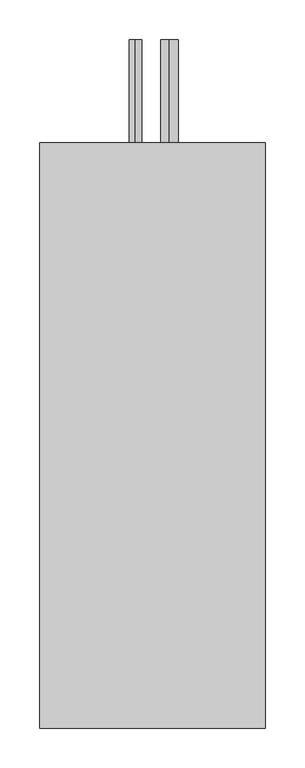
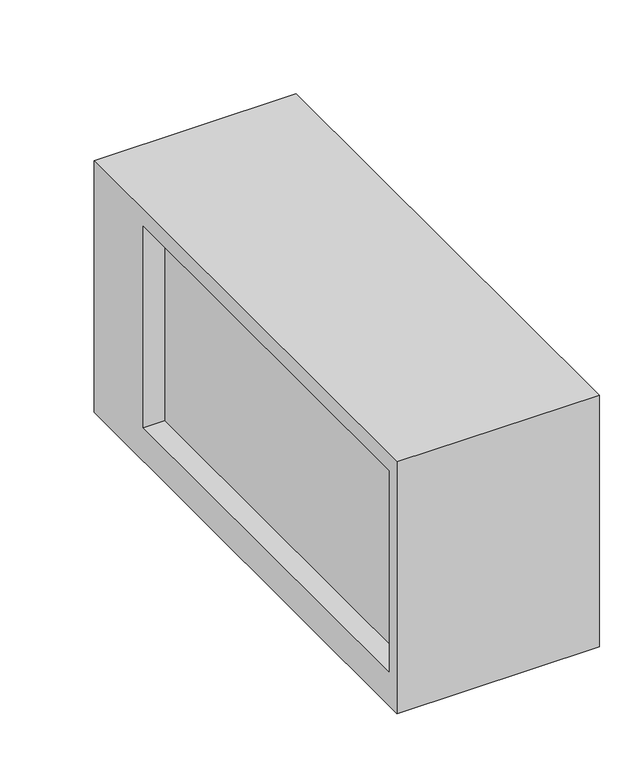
"""IFC4 building model written with IfcOpenShell, lengths in millimetres: proxy geometry, СВ_ВоздухоохладительФреоновый_КанальныйПрямоугольный_200-1000_SPC-F : SPC-F-600x300-L."""

import ifcopenshell
import ifcopenshell.guid

model = None  # the IFC model being written
_history = None  # IfcOwnerHistory: only IFC2X3 demands one
_inside = {}  # id of a spatial element -> (the spatial element, [elements in it])
_under = {}  # id of a project, library or spatial element -> (it, [spatial elements below it])
_declared = {}  # id of a project -> (the project, [libraries it declares])
_typed = {}  # id of a type object -> (the type object, [elements of that type])
_made_of = {}  # id of a material, layer set ... -> (it, [elements and type objects made of it])


def new_model(schema):
    """Start an empty IFC model of exactly this schema.

    Asked for "IFC4X3", IfcOpenShell would pick the latest addendum, in which some entities
    have other attributes; the version numbers below select the first issue.
    IFC2X3 requires an IfcOwnerHistory on every rooted entity: one is made here for all.
    """
    global model, _history
    if schema == "IFC4X3":
        model = ifcopenshell.file(schema_version=(4, 3, 0, 0))
    else:
        model = ifcopenshell.file(schema=schema)
    _inside.clear()
    _under.clear()
    _declared.clear()
    _typed.clear()
    _made_of.clear()
    _history = None
    if model.schema == "IFC2X3":
        org = make("IfcOrganization", Name="unknown")
        user = make(
            "IfcPersonAndOrganization",
            ThePerson=make("IfcPerson", FamilyName="unknown"),
            TheOrganization=org,
        )
        app = make(
            "IfcApplication",
            ApplicationDeveloper=org,
            Version="unknown",
            ApplicationFullName="unknown",
            ApplicationIdentifier="unknown",
        )
        _history = make(
            "IfcOwnerHistory",
            OwningUser=user,
            OwningApplication=app,
            ChangeAction="ADDED",
            CreationDate=0,
        )
    return model


def make(cls, **values):
    """One entity of the class cls with the attributes given. An attribute that is None is left unset."""
    return model.create_entity(
        cls, **{name: value for name, value in values.items() if value is not None}
    )


def rooted(cls, **values):
    """An entity with a GlobalId (a new one), such as an element, a storey or a relation."""
    return make(cls, GlobalId=ifcopenshell.guid.new(), OwnerHistory=_history, **values)


def si_unit(unit_type, name, prefix=None):
    """IfcSIUnit, for example si_unit("LENGTHUNIT", "METRE", prefix="MILLI")."""
    return make("IfcSIUnit", UnitType=unit_type, Prefix=prefix, Name=name)


def assignment(units):
    """IfcUnitAssignment: the units of a project."""
    return None if units is None else make("IfcUnitAssignment", Units=units)


def point(xyz):
    """IfcCartesianPoint."""
    return None if xyz is None else make("IfcCartesianPoint", Coordinates=xyz)


def direction(xyz):
    """IfcDirection."""
    return None if xyz is None else make("IfcDirection", DirectionRatios=xyz)


def frame(location, z_axis=None, x_axis=None):
    """IfcAxis2Placement3D, a coordinate frame: its origin and axes. An axis left out is left unset."""
    return make(
        "IfcAxis2Placement3D",
        Location=point(location),
        Axis=direction(z_axis),
        RefDirection=direction(x_axis),
    )


def frame_2d(location, x_axis=None):
    """IfcAxis2Placement2D, a coordinate frame in the plane: its origin and x axis."""
    return make(
        "IfcAxis2Placement2D", Location=point(location), RefDirection=direction(x_axis)
    )


def origin():
    """The frame at (0, 0, 0) with its axes left unset."""
    return frame((0.0, 0.0, 0.0))


def place(relative_to, where):
    """IfcLocalPlacement: puts the frame where relative to a parent placement (None: the world)."""
    return make(
        "IfcLocalPlacement", PlacementRelTo=relative_to, RelativePlacement=where
    )


def context(
    kind, dimensions, precision=None, world=None, true_north=None, identifier=None
):
    """IfcGeometricRepresentationContext, for example the 3D "Model" context."""
    return make(
        "IfcGeometricRepresentationContext",
        ContextIdentifier=identifier,
        ContextType=kind,
        CoordinateSpaceDimension=dimensions,
        Precision=precision,
        WorldCoordinateSystem=world,
        TrueNorth=true_north,
    )


def project(units=None, contexts=None):
    """IfcProject with its units and contexts."""
    return rooted(
        "IfcProject",
        Name="project",
        RepresentationContexts=contexts,
        UnitsInContext=assignment(units),
    )


def spatial(cls, under=None, at=None, **own):
    """A site, building, storey or space (cls), placed at a placement, below another one or the project."""
    s = rooted(cls, ObjectPlacement=at, **own)
    if under is not None:
        _under.setdefault(under.id(), (under, []))[1].append(s)
    return s


def polyline(points):
    """IfcPolyline through the points."""
    return make("IfcPolyline", Points=[point(p) for p in points])


def circle_curve(where, radius):
    """IfcCircle in the frame where."""
    return make("IfcCircle", Position=where, Radius=radius)


def trimmed(basis, trim1, trim2, sense, master):
    """IfcTrimmedCurve: the piece of a basis curve between two trims."""
    return make(
        "IfcTrimmedCurve",
        BasisCurve=basis,
        Trim1=trim1,
        Trim2=trim2,
        SenseAgreement=sense,
        MasterRepresentation=master,
    )


def segment(curve, same_sense, transition):
    """IfcCompositeCurveSegment."""
    return make(
        "IfcCompositeCurveSegment",
        Transition=transition,
        SameSense=same_sense,
        ParentCurve=curve,
    )


def composite_curve(segments, self_intersect=None):
    """IfcCompositeCurve: segments joined end to end."""
    return make("IfcCompositeCurve", Segments=segments, SelfIntersect=self_intersect)


def outline(outer, holes=None, kind="AREA"):
    """IfcArbitraryClosedProfileDef: a profile drawn as a closed curve; with holes, ...WithVoids."""
    if holes is None:
        return make("IfcArbitraryClosedProfileDef", ProfileType=kind, OuterCurve=outer)
    return make(
        "IfcArbitraryProfileDefWithVoids",
        ProfileType=kind,
        OuterCurve=outer,
        InnerCurves=holes,
    )


def extrude(swept, where, along, depth):
    """IfcExtrudedAreaSolid: the profile swept, set in the frame where, extruded along a direction by depth."""
    return make(
        "IfcExtrudedAreaSolid",
        SweptArea=swept,
        Position=where,
        ExtrudedDirection=direction(along),
        Depth=depth,
    )


def shape(context_of_items, identifier, shape_type, items):
    """IfcShapeRepresentation: the items that make up one representation, for example the "Body"."""
    return make(
        "IfcShapeRepresentation",
        ContextOfItems=context_of_items,
        RepresentationIdentifier=identifier,
        RepresentationType=shape_type,
        Items=items,
    )


def source(mapping_origin, context_of_items, identifier, shape_type, items):
    """IfcRepresentationMap: a shape defined once, which mapped items show again and again."""
    return make(
        "IfcRepresentationMap",
        MappingOrigin=mapping_origin,
        MappedRepresentation=shape(context_of_items, identifier, shape_type, items),
    )


def transform(
    local_origin,
    x_axis=None,
    y_axis=None,
    z_axis=None,
    scale=None,
    scale2=None,
    scale3=None,
    uniform=True,
):
    """IfcCartesianTransformationOperator3D, or its non-uniform kind. x_axis, y_axis, z_axis: its Axis1, 2, 3."""
    if uniform:
        return make(
            "IfcCartesianTransformationOperator3D",
            Axis1=direction(x_axis),
            Axis2=direction(y_axis),
            LocalOrigin=point(local_origin),
            Scale=scale,
            Axis3=direction(z_axis),
        )
    return make(
        "IfcCartesianTransformationOperator3DnonUniform",
        Axis1=direction(x_axis),
        Axis2=direction(y_axis),
        LocalOrigin=point(local_origin),
        Scale=scale,
        Axis3=direction(z_axis),
        Scale2=scale2,
        Scale3=scale3,
    )


def mapped(mapping_source, mapping_target):
    """IfcMappedItem: shows the shape of a source again, moved by a transform."""
    return make(
        "IfcMappedItem", MappingSource=mapping_source, MappingTarget=mapping_target
    )


def made_of(thing, what):
    """Note that an element or type object is made of a material, layer set ...; save() writes the relation."""
    if what is not None:
        _made_of.setdefault(what.id(), (what, []))[1].append(thing)
    return thing


def element(
    cls,
    number,
    at=None,
    inside=None,
    cuts=None,
    type_object=None,
    material=None,
    context=None,
    identifier="Body",
    shape_type=None,
    held_by="IfcProductDefinitionShape",
    body=None,
    shapes=None,
    **own,
):
    """One element of the class cls, such as IfcWall. Its Tag is "e" and its number.

    at: its placement. inside: the storey or other place that contains it. cuts: it is an
    opening in that element (IfcRelVoidsElement). A single representation is given by context,
    identifier, shape_type and body (its items); several are given by shapes. held_by: the class
    of the entity that holds the representations. save() writes the other relations.
    """
    e = rooted(cls, Tag="e%d" % number, ObjectPlacement=at, **own)
    if body is not None:
        shapes = [shape(context, identifier, shape_type, body)]
    if shapes is not None:
        e.Representation = make(held_by, Representations=shapes)
    if inside is not None:
        _inside.setdefault(inside.id(), (inside, []))[1].append(e)
    if cuts is not None:
        rooted(
            "IfcRelVoidsElement", RelatingBuildingElement=cuts, RelatedOpeningElement=e
        )
    if type_object is not None:
        _typed.setdefault(type_object.id(), (type_object, []))[1].append(e)
    return made_of(e, material)


def aggregate(whole, parts):
    """IfcRelAggregates: a whole, such as a stair, and the parts it consists of."""
    return rooted("IfcRelAggregates", RelatingObject=whole, RelatedObjects=parts)


def save(model, path):
    """Write the relations noted so far, then the file.

    IfcRelAggregates (storeys below a building ...), IfcRelContainedInSpatialStructure (elements
    in a storey), IfcRelDefinesByType, IfcRelAssociatesMaterial and IfcRelDeclares: one each for
    every whole, place, type object, material and project.
    """
    for whole, parts in _under.values():
        aggregate(whole, parts)
    for where, things in _inside.values():
        rooted(
            "IfcRelContainedInSpatialStructure",
            RelatedElements=things,
            RelatingStructure=where,
        )
    for kind, things in _typed.values():
        rooted("IfcRelDefinesByType", RelatedObjects=things, RelatingType=kind)
    for what, things in _made_of.values():
        rooted("IfcRelAssociatesMaterial", RelatedObjects=things, RelatingMaterial=what)
    for by, libraries in _declared.values():
        rooted("IfcRelDeclares", RelatingContext=by, RelatedDefinitions=libraries)
    model.write(path)


def mechanical_equipment_61f48e37(model_context):
    return source(origin(), model_context, "Body", "SweptSolid", [
        extrude(outline(polyline([(-320.0, -200.0), (-320.0, 175.0), (420.0, 175.0), (420.0, -200.0), (-320.0, -200.0)]), holes=[polyline([(-300.0, 150.0), (-300.0, -150.0), (300.0, -150.0), (300.0, 150.0), (-300.0, 150.0)])]), frame((-142.5, 0.0, 0.0), z_axis=(1.0, 0.0, 0.0), x_axis=(0.0, 1.0, 0.0)), (0.0, 0.0, 1.0), 285.0),
        extrude(outline(composite_curve([segment(trimmed(circle_curve(frame_2d((-100.0, 21.5)), 11.1), [point((-111.1, 21.5))], [point((-88.9, 21.5))], False, "CARTESIAN"), True, "CONTINUOUS"), segment(trimmed(circle_curve(frame_2d((-100.0, 21.5)), 11.1), [point((-88.9, 21.5))], [point((-111.1, 21.5))], False, "CARTESIAN"), True, "CONTINUOUS")], self_intersect=False)), frame((0.0, 420.0, 0.0), z_axis=(0.0, 1.0, 0.0), x_axis=(0.0, 0.0, 1.0)), (0.0, 0.0, 1.0), 130.0),
        extrude(outline(composite_curve([segment(trimmed(circle_curve(frame_2d((60.0, -21.5)), 7.95), [point((52.05, -21.5))], [point((67.95, -21.5))], False, "CARTESIAN"), True, "CONTINUOUS"), segment(trimmed(circle_curve(frame_2d((60.0, -21.5)), 7.95), [point((67.95, -21.5))], [point((52.05, -21.5))], False, "CARTESIAN"), True, "CONTINUOUS")], self_intersect=False)), frame((0.0, 420.0, 0.0), z_axis=(0.0, 1.0, 0.0), x_axis=(0.0, 0.0, 1.0)), (0.0, 0.0, 1.0), 130.0),
        extrude(outline(composite_curve([segment(trimmed(circle_curve(frame_2d((0.0, 380.0)), 11.0), [point((-11.0, 380.0))], [point((11.0, 380.0))], False, "CARTESIAN"), True, "CONTINUOUS"), segment(trimmed(circle_curve(frame_2d((0.0, 380.0)), 11.0), [point((11.0, 380.0))], [point((-11.0, 380.0))], False, "CARTESIAN"), True, "CONTINUOUS")], self_intersect=False)), frame((0.0, 0.0, -220.0), z_axis=(0.0, 0.0, 1.0), x_axis=(1.0, 0.0, 0.0)), (0.0, 0.0, 1.0), 20.0),
        extrude(outline(polyline([(112.5, 300.0), (112.5, -300.0), (-112.5, -300.0), (-112.5, 300.0), (112.5, 300.0)])), frame((0.0, 0.0, -150.0), z_axis=(0.0, 0.0, 1.0), x_axis=(1.0, 0.0, 0.0)), (0.0, 0.0, 1.0), 300.0),
    ])


if __name__ == "__main__":
    model = new_model("IFC4")
    model_context = context("Model", 3, world=origin())
    ifc_project = project(units=[si_unit("LENGTHUNIT", "METRE", prefix="MILLI")], contexts=[model_context])
    site = spatial("IfcSite", under=ifc_project)
    building = spatial("IfcBuilding", under=site)
    placement = place(None, origin())
    mechanical_equipment_shape = mechanical_equipment_61f48e37(model_context)
    element("IfcBuildingElementProxy", 1, Name="СВ_ВоздухоохладительФреоновый_КанальныйПрямоугольный_200-1000_SPC-F : SPC-F-600x300-L", ObjectType="СВ_ВоздухоохладительФреоновый_КанальныйПрямоугольный_200-1000_SPC-F : SPC-F-600x300-L", at=placement, inside=building, context=model_context, shape_type="MappedRepresentation", body=[
        mapped(mechanical_equipment_shape, transform((0.0, 0.0, 0.0), x_axis=(1.0, 0.0, 0.0), y_axis=(0.0, 1.0, 0.0), z_axis=(0.0, 0.0, 1.0))),
    ])
    save(model, "model.ifc")
